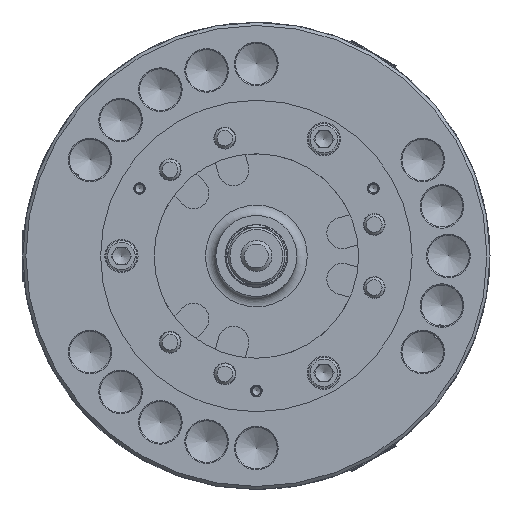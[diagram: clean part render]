
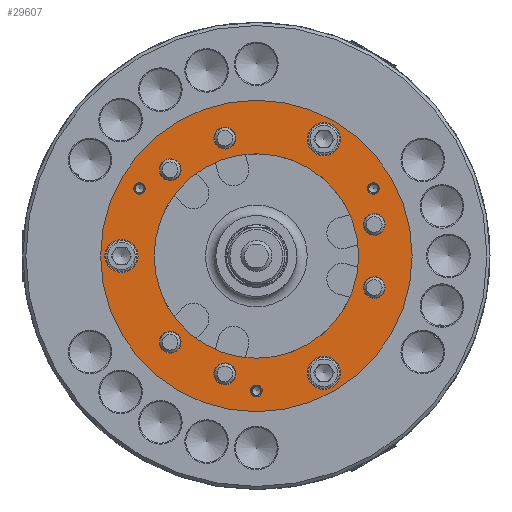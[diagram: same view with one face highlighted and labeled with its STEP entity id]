
A CAD part, left-side view. The second image highlights one B-rep face of the part: STEP entity #29607.
In plain terms, the highlighted planar face has unit normal (-1, 0, 0).
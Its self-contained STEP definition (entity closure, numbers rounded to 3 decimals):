
#441 = CARTESIAN_POINT ( 'NONE',  ( -108., 0., 0. ) ) ;
#535 = VERTEX_POINT ( 'NONE', #41478 ) ;
#743 = VERTEX_POINT ( 'NONE', #16466 ) ;
#1218 = DIRECTION ( 'NONE',  ( 0., 0., -1. ) ) ;
#1229 = ORIENTED_EDGE ( 'NONE', *, *, #50070, .T. ) ;
#1432 = EDGE_CURVE ( 'NONE', #51885, #51885, #84242, .T. ) ;
#1853 = CARTESIAN_POINT ( 'NONE',  ( -108., -112.583, 65. ) ) ;
#2727 = CARTESIAN_POINT ( 'NONE',  ( -108., 0., -98.5 ) ) ;
#2762 = FACE_BOUND ( 'NONE', #4136, .T. ) ;
#2923 = AXIS2_PLACEMENT_3D ( 'NONE', #69561, #41177, #20780 ) ;
#4136 = EDGE_LOOP ( 'NONE', ( #23268 ) ) ;
#4929 = ORIENTED_EDGE ( 'NONE', *, *, #67072, .F. ) ;
#4982 = FACE_BOUND ( 'NONE', #38911, .T. ) ;
#5008 = VERTEX_POINT ( 'NONE', #34341 ) ;
#5573 = CIRCLE ( 'NONE', #74180, 98.5 ) ;
#7037 = DIRECTION ( 'NONE',  ( -1., 0., 0. ) ) ;
#7320 = DIRECTION ( 'NONE',  ( 0., 0., -1. ) ) ;
#8781 = EDGE_CURVE ( 'NONE', #743, #743, #10031, .T. ) ;
#8810 = ORIENTED_EDGE ( 'NONE', *, *, #82730, .T. ) ;
#9017 = EDGE_CURVE ( 'NONE', #55255, #55255, #5573, .T. ) ;
#10031 = CIRCLE ( 'NONE', #10246, 16. ) ;
#10132 = ORIENTED_EDGE ( 'NONE', *, *, #9017, .T. ) ;
#10246 = AXIS2_PLACEMENT_3D ( 'NONE', #46754, #60163, #11386 ) ;
#10724 = ORIENTED_EDGE ( 'NONE', *, *, #50782, .F. ) ;
#11386 = DIRECTION ( 'NONE',  ( 0., 0.866, 0.5 ) ) ;
#12587 = DIRECTION ( 'NONE',  ( -1., 0., 0. ) ) ;
#13115 = EDGE_LOOP ( 'NONE', ( #4929 ) ) ;
#13921 = PLANE ( 'NONE',  #80129 ) ;
#14331 = EDGE_CURVE ( 'NONE', #58491, #58491, #73792, .T. ) ;
#14401 = EDGE_CURVE ( 'NONE', #39483, #39483, #52620, .T. ) ;
#14818 = CARTESIAN_POINT ( 'NONE',  ( -108., -78.856, -104.583 ) ) ;
#14849 = AXIS2_PLACEMENT_3D ( 'NONE', #58182, #50114, #29573 ) ;
#15296 = DIRECTION ( 'NONE',  ( 0., 0., 1. ) ) ;
#16466 = CARTESIAN_POINT ( 'NONE',  ( -108., -51.144, 120.583 ) ) ;
#17387 = CARTESIAN_POINT ( 'NONE',  ( -108., 21.318, 108.246 ) ) ;
#18463 = VERTEX_POINT ( 'NONE', #33727 ) ;
#18512 = EDGE_LOOP ( 'NONE', ( #60296 ) ) ;
#19259 = CARTESIAN_POINT ( 'NONE',  ( -108., 112.583, 65. ) ) ;
#19502 = FACE_BOUND ( 'NONE', #34953, .T. ) ;
#20090 = AXIS2_PLACEMENT_3D ( 'NONE', #19259, #68065, #75820 ) ;
#20780 = DIRECTION ( 'NONE',  ( 0., 0., 1. ) ) ;
#21733 = FACE_BOUND ( 'NONE', #24309, .T. ) ;
#21946 = DIRECTION ( 'NONE',  ( 1., 0., 0. ) ) ;
#22273 = EDGE_LOOP ( 'NONE', ( #10132 ) ) ;
#22433 = CIRCLE ( 'NONE', #67254, 16. ) ;
#23058 = CIRCLE ( 'NONE', #34211, 10.5 ) ;
#23268 = ORIENTED_EDGE ( 'NONE', *, *, #60541, .F. ) ;
#23470 = ORIENTED_EDGE ( 'NONE', *, *, #1432, .F. ) ;
#23933 = FACE_BOUND ( 'NONE', #89554, .T. ) ;
#24309 = EDGE_LOOP ( 'NONE', ( #39763 ) ) ;
#24664 = ORIENTED_EDGE ( 'NONE', *, *, #56458, .F. ) ;
#25677 = EDGE_LOOP ( 'NONE', ( #8810 ) ) ;
#25864 = DIRECTION ( 'NONE',  ( 0., 0.866, 0.5 ) ) ;
#26947 = CARTESIAN_POINT ( 'NONE',  ( -108., 83.085, 72.585 ) ) ;
#27568 = CARTESIAN_POINT ( 'NONE',  ( -108., 30.411, -113.496 ) ) ;
#27600 = CIRCLE ( 'NONE', #20090, 5.6 ) ;
#28377 = FACE_BOUND ( 'NONE', #30358, .T. ) ;
#29573 = DIRECTION ( 'NONE',  ( 0., -0.866, 0.5 ) ) ;
#29607 = ADVANCED_FACE ( 'NONE', ( #56201, #21733, #87421, #89640, #30576, #33854, #88494, #28377, #23933, #4982, #2762, #57283, #19502, #55006 ), #13921, .T. ) ;
#30358 = EDGE_LOOP ( 'NONE', ( #24664 ) ) ;
#30576 = FACE_BOUND ( 'NONE', #22273, .T. ) ;
#30641 = VERTEX_POINT ( 'NONE', #70167 ) ;
#31239 = EDGE_LOOP ( 'NONE', ( #89505 ) ) ;
#33727 = CARTESIAN_POINT ( 'NONE',  ( -108., 112.583, 70.6 ) ) ;
#33854 = FACE_BOUND ( 'NONE', #25677, .T. ) ;
#33857 = AXIS2_PLACEMENT_3D ( 'NONE', #68776, #68452, #25864 ) ;
#34211 = AXIS2_PLACEMENT_3D ( 'NONE', #55435, #12587, #55745 ) ;
#34341 = CARTESIAN_POINT ( 'NONE',  ( -108., -104.403, -35.661 ) ) ;
#34953 = EDGE_LOOP ( 'NONE', ( #23470 ) ) ;
#35067 = VERTEX_POINT ( 'NONE', #91354 ) ;
#36098 = VERTEX_POINT ( 'NONE', #14818 ) ;
#36444 = CIRCLE ( 'NONE', #50528, 5.6 ) ;
#36923 = ORIENTED_EDGE ( 'NONE', *, *, #14331, .T. ) ;
#38708 = DIRECTION ( 'NONE',  ( 0., -0.866, -0.5 ) ) ;
#38911 = EDGE_LOOP ( 'NONE', ( #55805 ) ) ;
#39483 = VERTEX_POINT ( 'NONE', #59621 ) ;
#39763 = ORIENTED_EDGE ( 'NONE', *, *, #52625, .F. ) ;
#39985 = AXIS2_PLACEMENT_3D ( 'NONE', #82587, #55154, #62336 ) ;
#41177 = DIRECTION ( 'NONE',  ( -1., 0., 0. ) ) ;
#41478 = CARTESIAN_POINT ( 'NONE',  ( -108., 130., 16. ) ) ;
#42308 = EDGE_LOOP ( 'NONE', ( #1229 ) ) ;
#42852 = CARTESIAN_POINT ( 'NONE',  ( -108., 0., 0. ) ) ;
#43865 = EDGE_LOOP ( 'NONE', ( #48656 ) ) ;
#44082 = DIRECTION ( 'NONE',  ( 1., 0., 0. ) ) ;
#44935 = DIRECTION ( 'NONE',  ( -1., 0., 0. ) ) ;
#46754 = CARTESIAN_POINT ( 'NONE',  ( -108., -65., 112.583 ) ) ;
#48656 = ORIENTED_EDGE ( 'NONE', *, *, #54005, .T. ) ;
#48666 = CARTESIAN_POINT ( 'NONE',  ( -108., 83.085, -72.585 ) ) ;
#49553 = VERTEX_POINT ( 'NONE', #26947 ) ;
#49897 = DIRECTION ( 'NONE',  ( 1., 0., 0. ) ) ;
#50070 = EDGE_CURVE ( 'NONE', #49553, #49553, #85642, .T. ) ;
#50114 = DIRECTION ( 'NONE',  ( 1., 0., 0. ) ) ;
#50253 = CIRCLE ( 'NONE', #39985, 10.5 ) ;
#50528 = AXIS2_PLACEMENT_3D ( 'NONE', #1853, #65931, #80226 ) ;
#50782 = EDGE_CURVE ( 'NONE', #18463, #18463, #27600, .T. ) ;
#51259 = CIRCLE ( 'NONE', #79397, 150. ) ;
#51885 = VERTEX_POINT ( 'NONE', #17387 ) ;
#52620 = CIRCLE ( 'NONE', #2923, 5.6 ) ;
#52625 = EDGE_CURVE ( 'NONE', #35067, #35067, #36444, .T. ) ;
#54005 = EDGE_CURVE ( 'NONE', #30641, #30641, #65251, .T. ) ;
#55006 = FACE_BOUND ( 'NONE', #42308, .T. ) ;
#55154 = DIRECTION ( 'NONE',  ( -1., 0., 0. ) ) ;
#55255 = VERTEX_POINT ( 'NONE', #2727 ) ;
#55435 = CARTESIAN_POINT ( 'NONE',  ( -108., -113.496, -30.411 ) ) ;
#55744 = AXIS2_PLACEMENT_3D ( 'NONE', #66169, #44935, #38708 ) ;
#55745 = DIRECTION ( 'NONE',  ( 0., 0.866, -0.5 ) ) ;
#55805 = ORIENTED_EDGE ( 'NONE', *, *, #8781, .T. ) ;
#56201 = FACE_BOUND ( 'NONE', #66896, .T. ) ;
#56458 = EDGE_CURVE ( 'NONE', #61790, #61790, #50253, .T. ) ;
#57283 = FACE_BOUND ( 'NONE', #43865, .T. ) ;
#58182 = CARTESIAN_POINT ( 'NONE',  ( -108., -65., -112.583 ) ) ;
#58491 = VERTEX_POINT ( 'NONE', #66491 ) ;
#58662 = CARTESIAN_POINT ( 'NONE',  ( -108., 75., -129.904 ) ) ;
#59621 = CARTESIAN_POINT ( 'NONE',  ( -108., 0., -124.4 ) ) ;
#60163 = DIRECTION ( 'NONE',  ( 1., 0., 0. ) ) ;
#60296 = ORIENTED_EDGE ( 'NONE', *, *, #14401, .F. ) ;
#60541 = EDGE_CURVE ( 'NONE', #5008, #5008, #23058, .T. ) ;
#61790 = VERTEX_POINT ( 'NONE', #48666 ) ;
#62336 = DIRECTION ( 'NONE',  ( 0., 0., 1. ) ) ;
#62826 = VERTEX_POINT ( 'NONE', #76082 ) ;
#63248 = EDGE_CURVE ( 'NONE', #535, #535, #22433, .T. ) ;
#63676 = AXIS2_PLACEMENT_3D ( 'NONE', #27568, #69877, #77312 ) ;
#64791 = DIRECTION ( 'NONE',  ( 0., 0., -1. ) ) ;
#65251 = CIRCLE ( 'NONE', #33857, 10.5 ) ;
#65423 = CIRCLE ( 'NONE', #14849, 16. ) ;
#65931 = DIRECTION ( 'NONE',  ( -1., 0., 0. ) ) ;
#66169 = CARTESIAN_POINT ( 'NONE',  ( -108., 30.411, 113.496 ) ) ;
#66491 = CARTESIAN_POINT ( 'NONE',  ( -108., 21.318, -108.246 ) ) ;
#66896 = EDGE_LOOP ( 'NONE', ( #10724 ) ) ;
#67072 = EDGE_CURVE ( 'NONE', #62826, #62826, #51259, .T. ) ;
#67254 = AXIS2_PLACEMENT_3D ( 'NONE', #70941, #85595, #15296 ) ;
#68065 = DIRECTION ( 'NONE',  ( -1., 0., 0. ) ) ;
#68452 = DIRECTION ( 'NONE',  ( 1., 0., 0. ) ) ;
#68776 = CARTESIAN_POINT ( 'NONE',  ( -108., -113.496, 30.411 ) ) ;
#69561 = CARTESIAN_POINT ( 'NONE',  ( -108., 0., -130. ) ) ;
#69877 = DIRECTION ( 'NONE',  ( 1., 0., 0. ) ) ;
#70167 = CARTESIAN_POINT ( 'NONE',  ( -108., -104.403, 35.661 ) ) ;
#70941 = CARTESIAN_POINT ( 'NONE',  ( -108., 130., 0. ) ) ;
#72971 = DIRECTION ( 'NONE',  ( 0., 0., 1. ) ) ;
#73030 = AXIS2_PLACEMENT_3D ( 'NONE', #79110, #21946, #64791 ) ;
#73792 = CIRCLE ( 'NONE', #63676, 10.5 ) ;
#74180 = AXIS2_PLACEMENT_3D ( 'NONE', #42852, #44082, #1218 ) ;
#75820 = DIRECTION ( 'NONE',  ( 0., 0., 1. ) ) ;
#76082 = CARTESIAN_POINT ( 'NONE',  ( -108., 0., -150. ) ) ;
#77312 = DIRECTION ( 'NONE',  ( 0., -0.866, 0.5 ) ) ;
#79110 = CARTESIAN_POINT ( 'NONE',  ( -108., 83.085, 83.085 ) ) ;
#79397 = AXIS2_PLACEMENT_3D ( 'NONE', #441, #49897, #7320 ) ;
#80129 = AXIS2_PLACEMENT_3D ( 'NONE', #58662, #7037, #72971 ) ;
#80226 = DIRECTION ( 'NONE',  ( 0., 0., 1. ) ) ;
#82587 = CARTESIAN_POINT ( 'NONE',  ( -108., 83.085, -83.085 ) ) ;
#82730 = EDGE_CURVE ( 'NONE', #36098, #36098, #65423, .T. ) ;
#84242 = CIRCLE ( 'NONE', #55744, 10.5 ) ;
#85595 = DIRECTION ( 'NONE',  ( -1., 0., 0. ) ) ;
#85642 = CIRCLE ( 'NONE', #73030, 10.5 ) ;
#87421 = FACE_BOUND ( 'NONE', #18512, .T. ) ;
#88494 = FACE_OUTER_BOUND ( 'NONE', #13115, .T. ) ;
#89505 = ORIENTED_EDGE ( 'NONE', *, *, #63248, .F. ) ;
#89554 = EDGE_LOOP ( 'NONE', ( #36923 ) ) ;
#89640 = FACE_BOUND ( 'NONE', #31239, .T. ) ;
#91354 = CARTESIAN_POINT ( 'NONE',  ( -108., -112.583, 70.6 ) ) ;
